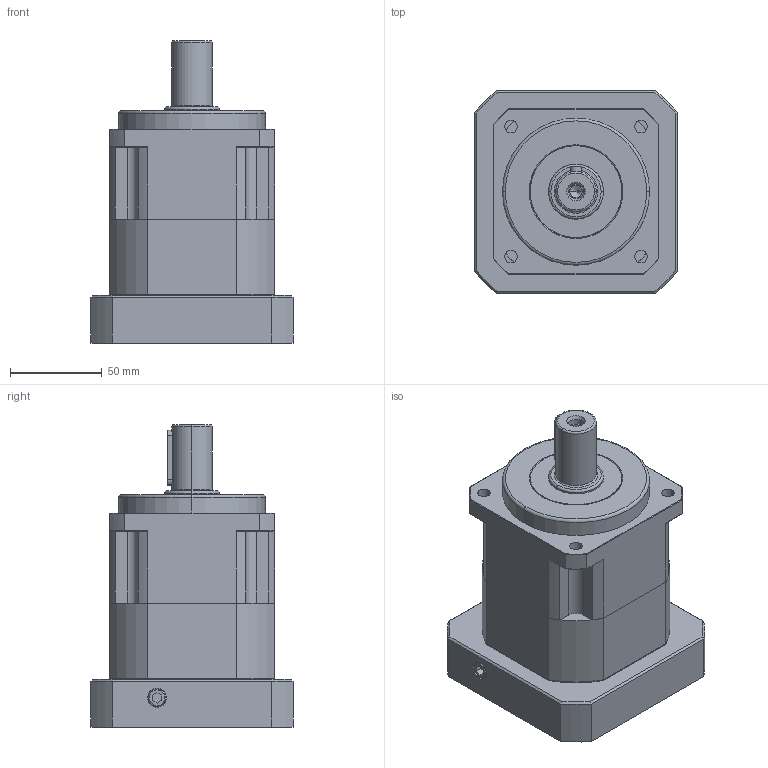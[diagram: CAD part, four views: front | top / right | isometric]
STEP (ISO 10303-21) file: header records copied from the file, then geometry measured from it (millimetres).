
FILE_DESCRIPTION (( 'STEP AP203' ), '1' );
FILE_NAME ('SB90-1-95M6.STEP', '2011-07-12T01:12:32', ( '1' ), ( '' ), 'SwSTEP 2.0', 'SolidWorks 2011', '' );
FILE_SCHEMA (( 'CONFIG_CONTROL_DESIGN' ));
Length unit declared in the file: millimetre
Products named in the file (1): SB90-1-95M6
Bounding box: 110 x 110 x 164.5 mm (x, y, z)
Volume: 739486.7 mm3; surface area: 153167.3 mm2
Topology: 16 solids, 16 shells, 667 faces, 1612 edges, 1008 vertices
Faces by surface type: plane 269, cylinder 248, cone 115, torus 26, bspline 9
Entity records: 20512 total; most frequent: CARTESIAN_POINT 4580, DIRECTION 3471, ORIENTED_EDGE 3172, EDGE_CURVE 1586, AXIS2_PLACEMENT_3D 1327, VERTEX_POINT 1008, VECTOR 817, LINE 817
